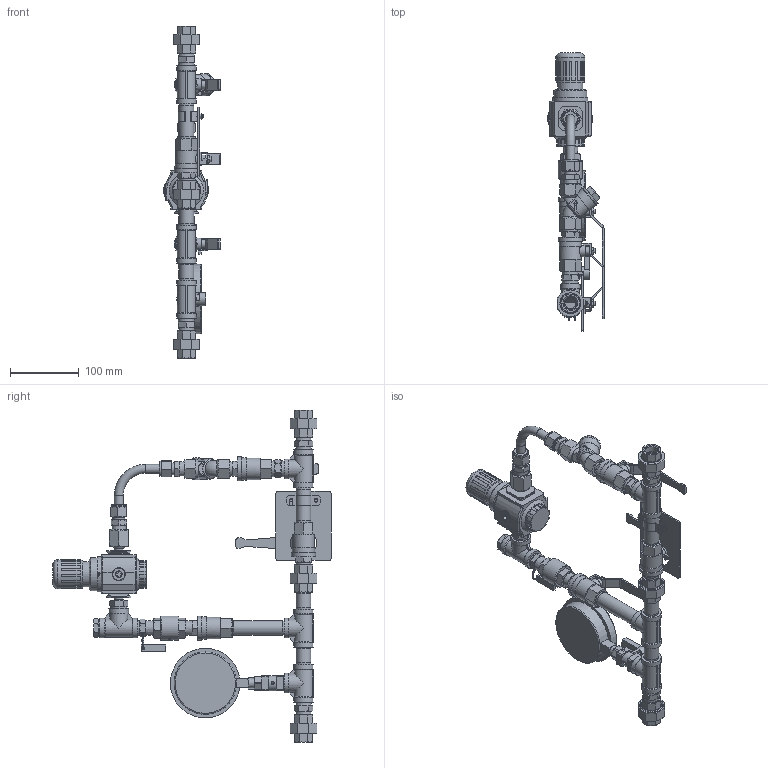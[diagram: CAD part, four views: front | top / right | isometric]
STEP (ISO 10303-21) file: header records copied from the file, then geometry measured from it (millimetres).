
FILE_DESCRIPTION(/* description */ (''),/* implementation_level */ '2;1');
FILE_NAME(/* name */ '392-01.stp',/* time_stamp */ '2025-02-04T16:14:06+02:00',/* author */ ('vladimir'),/* organization */ (''),/* preprocessor_version */ 'ST-DEVELOPER v20',/* originating_system */ 'Autodesk Inventor 2024',/* authorisation */ '');
FILE_SCHEMA (('AUTOMOTIVE_DESIGN { 1 0 10303 214 3 1 1 }'));
Products named in the file (1): 392-01
Bounding box: 81.7 x 403.18 x 481.2 mm (x, y, z)
Volume: 942152.4 mm3; surface area: 290755.6 mm2
Topology: 1 solids, 14 shells, 3246 faces, 8285 edges, 5361 vertices
Faces by surface type: plane 1819, bspline 633, cone 462, cylinder 309, torus 23
Full cylindrical faces by diameter (mm): 0.8 x1, 3 x2, 3.7 x2, 4.134 x1, 5 x5, 5.3 x1, 5.5 x1, 6 x2, 7 x4, 8 x3, 8.7 x1, 9.6 x2, 10.7 x2, 11.5 x1, 11.7 x2, 11.83 x1, 12 x3, 12.5 x1, 12.7 x2, 12.85 x2, 12.9 x2, 14 x5, 14.9 x2, 15 x1, 15.7 x2, 15.8 x7, 16.1 x2, 17 x3, 17.4 x4, 17.9 x2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
Entity records: 111642 total; most frequent: CARTESIAN_POINT 35128, ORIENTED_EDGE 16548, DIRECTION 12824, EDGE_CURVE 8274, VERTEX_POINT 5356, LINE 4834, VECTOR 4834, AXIS2_PLACEMENT_3D 3995
